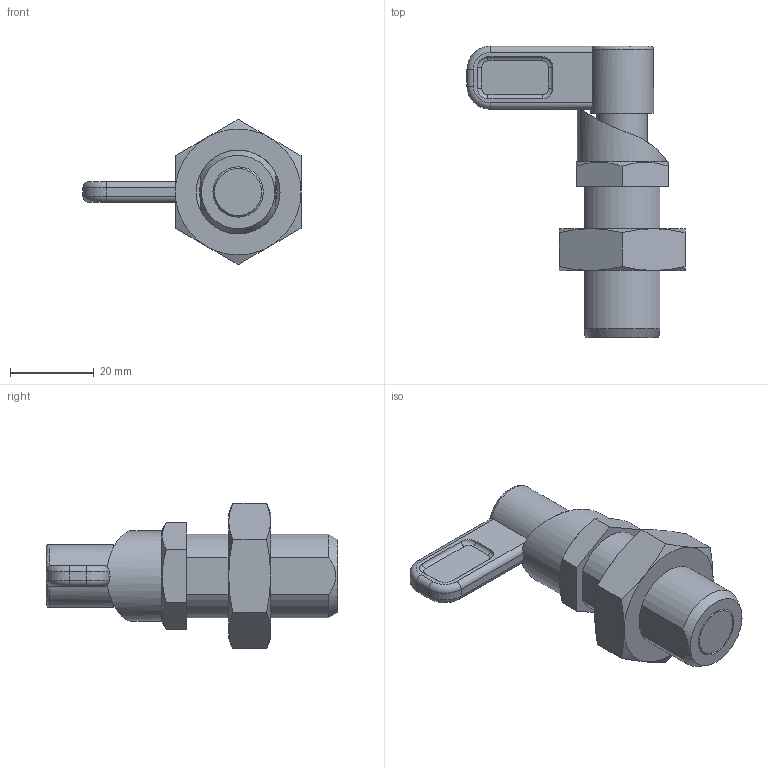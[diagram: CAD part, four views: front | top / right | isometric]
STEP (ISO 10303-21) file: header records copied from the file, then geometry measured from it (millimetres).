
FILE_DESCRIPTION( ( 'STEP AP203' ), '1' );
FILE_NAME( 'C:/Temp/Ganter_Step_05_03_2020/data/3_1/gn_612.8/gn612_8_ak/Indexing plunger GN 612.8-12-M20x1,5-AK (activated).stp', '2020-03-12T09:12:45', ( 'License CC BY-ND 4.0' ), ( 'CADENAS' ), ' ', 'PARTsolutions', ' ' );
FILE_SCHEMA( ( 'CONFIG_CONTROL_DESIGN' ) );
Length unit declared in the file: millimetre
Products named in the file (4): Indexing plunger GN 612.8-12-M20x1,5-AK (activated); _Indexing plunger GN 612.8-12-M20x1,5-AK (2)_2; _Indexing plunger GN 612.8-12-M20x1,5-AK (2)_1; _Indexing plunger GN 612.8-12-M20x1,5-AK (1)_3
Assembly tree (3 placements, depth 2):
  Indexing plunger GN 612.8-12-M20x1,5-AK (activated)
    _Indexing plunger GN 612.8-12-M20x1,5-AK (2)_2
    _Indexing plunger GN 612.8-12-M20x1,5-AK (2)_1
    _Indexing plunger GN 612.8-12-M20x1,5-AK (1)_3
Bounding box: 52 x 69.5 x 34.64 mm (x, y, z)
Volume: 25222.9 mm3; surface area: 12536.1 mm2
Topology: 3 solids, 3 shells, 95 faces, 215 edges, 135 vertices
Faces by surface type: plane 33, cylinder 32, cone 17, torus 13
Full cylindrical faces by diameter (mm): 12 x4, 13 x2, 15 x1, 15.5 x1, 18.376 x1, 21.5 x1
Entity records: 3150 total; most frequent: CARTESIAN_POINT 971, DIRECTION 436, ORIENTED_EDGE 396, EDGE_CURVE 198, AXIS2_PLACEMENT_3D 188, VERTEX_POINT 132, EDGE_LOOP 122, FACE_OUTER_BOUND 104
